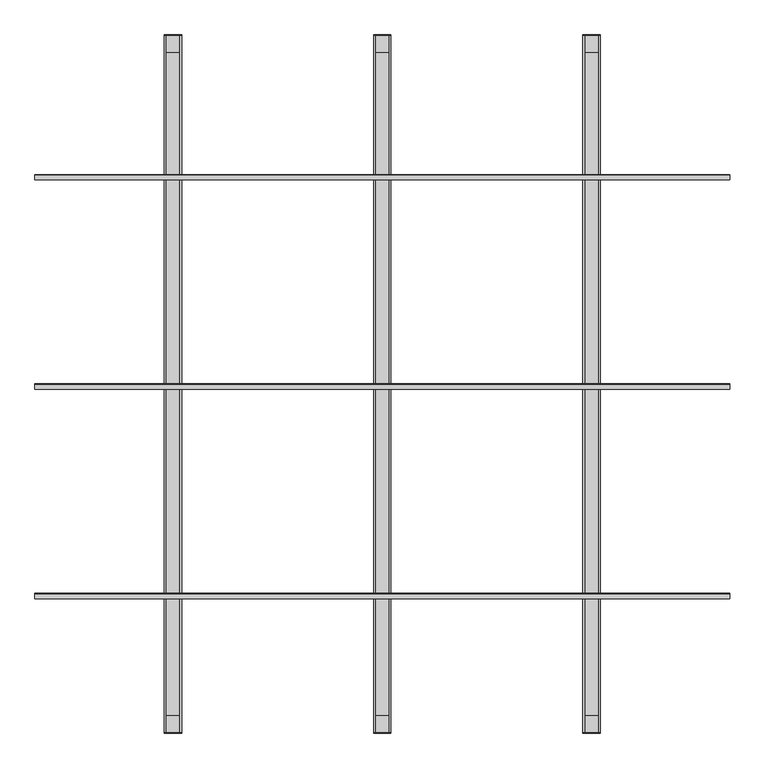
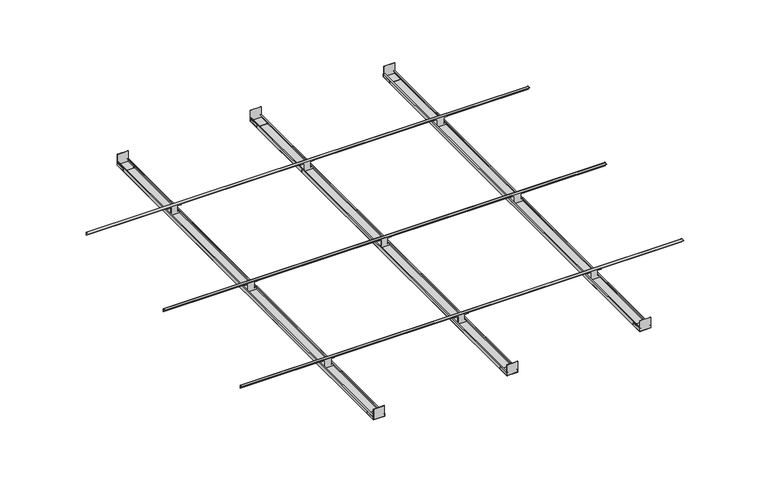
"""IFC4 building model written with IfcOpenShell, lengths in millimetres: proxy geometry, durlum_S5.4K-BR : durlum_S5.4K-BR."""

from ifc_helpers import new_model, si_unit, point, frame, frame_2d, origin, place, context, project, spatial, polyline, circle_curve, trimmed, segment, composite_curve, outline, extrude, source, transform, mapped, element, save


def generic_models_cbd92ba2(model_context):
    return source(origin(), model_context, "Body", "SweptSolid", [
        extrude(outline(polyline([(48.7946553, 1900.0), (48.7946553, 1998.75), (50.0446553, 1998.75), (50.0446553, 1900.0), (48.7946553, 1900.0)])), frame((0.0, 0.0, 2101.4976307), z_axis=(0.0, 0.0, 1.0), x_axis=(1.0, 0.0, 0.0)), (0.0, 0.0, 1.0), 22.9482224),
        extrude(outline(polyline([(-48.7946553, 1900.0), (-50.0446553, 1900.0), (-50.0446553, 1998.75), (-48.7946553, 1998.75), (-48.7946553, 1900.0)])), frame((0.0, 0.0, 2101.4976307), z_axis=(0.0, 0.0, 1.0), x_axis=(1.0, 0.0, 0.0)), (0.0, 0.0, 1.0), 22.9482224),
        extrude(outline(polyline([(2000.0, 2101.4976307), (1900.0, 2101.4976307), (1900.0, 2102.7476307), (1998.75, 2102.7476307), (1998.75, 2201.4976307), (2000.0, 2201.4976307), (2000.0, 2101.4976307)])), frame((-48.7946553, 0.0, 0.0), z_axis=(1.0, 0.0, 0.0), x_axis=(0.0, 1.0, 0.0)), (0.0, 0.0, 1.0), 97.5893106),
        extrude(outline(polyline([(-48.7946553, -1900.0), (-48.7946553, -1998.75), (-50.0446553, -1998.75), (-50.0446553, -1900.0), (-48.7946553, -1900.0)])), frame((0.0, 0.0, 2101.4981533), z_axis=(0.0, 0.0, 1.0), x_axis=(1.0, 0.0, 0.0)), (0.0, 0.0, 1.0), 22.9482224),
        extrude(outline(polyline([(48.7946553, -1900.0), (50.0446553, -1900.0), (50.0446553, -1998.75), (48.7946553, -1998.75), (48.7946553, -1900.0)])), frame((0.0, 0.0, 2101.4981533), z_axis=(0.0, 0.0, 1.0), x_axis=(1.0, 0.0, 0.0)), (0.0, 0.0, 1.0), 22.9482224),
        extrude(outline(polyline([(-2000.0, 2101.4981533), (-2000.0, 2201.4981533), (-1998.75, 2201.4981533), (-1998.75, 2102.7481533), (-1900.0, 2102.7481533), (-1900.0, 2101.4981533), (-2000.0, 2101.4981533)])), frame((-48.7946553, 0.0, 0.0), z_axis=(1.0, 0.0, 0.0), x_axis=(0.0, 1.0, 0.0)), (0.0, 0.0, 1.0), 97.5893106),
        extrude(outline(polyline([(1151.2053447, -1900.0), (1151.2053447, -1998.75), (1149.9553447, -1998.75), (1149.9553447, -1900.0), (1151.2053447, -1900.0)])), frame((0.0, 0.0, 2101.4963067), z_axis=(0.0, 0.0, 1.0), x_axis=(1.0, 0.0, 0.0)), (0.0, 0.0, 1.0), 22.9482224),
        extrude(outline(polyline([(1248.7946553, -1900.0), (1250.0446553, -1900.0), (1250.0446553, -1998.75), (1248.7946553, -1998.75), (1248.7946553, -1900.0)])), frame((0.0, 0.0, 2101.4963067), z_axis=(0.0, 0.0, 1.0), x_axis=(1.0, 0.0, 0.0)), (0.0, 0.0, 1.0), 22.9482224),
        extrude(outline(polyline([(-2000.0, 2101.4963067), (-2000.0, 2201.4963067), (-1998.75, 2201.4963067), (-1998.75, 2102.7463067), (-1900.0, 2102.7463067), (-1900.0, 2101.4963067), (-2000.0, 2101.4963067)])), frame((1151.2053447, 0.0, 0.0), z_axis=(1.0, 0.0, 0.0), x_axis=(0.0, 1.0, 0.0)), (0.0, 0.0, 1.0), 97.5893106),
        extrude(outline(polyline([(1248.7946553, 1900.0), (1248.7946553, 1998.75), (1250.0446553, 1998.75), (1250.0446553, 1900.0), (1248.7946553, 1900.0)])), frame((0.0, 0.0, 2101.4952614), z_axis=(0.0, 0.0, 1.0), x_axis=(1.0, 0.0, 0.0)), (0.0, 0.0, 1.0), 22.9482224),
        extrude(outline(polyline([(1151.2053447, 1900.0), (1149.9553447, 1900.0), (1149.9553447, 1998.75), (1151.2053447, 1998.75), (1151.2053447, 1900.0)])), frame((0.0, 0.0, 2101.4952614), z_axis=(0.0, 0.0, 1.0), x_axis=(1.0, 0.0, 0.0)), (0.0, 0.0, 1.0), 22.9482224),
        extrude(outline(polyline([(2000.0, 2101.4952614), (1900.0, 2101.4952614), (1900.0, 2102.7452614), (1998.75, 2102.7452614), (1998.75, 2201.4952614), (2000.0, 2201.4952614), (2000.0, 2101.4952614)])), frame((1151.2053447, 0.0, 0.0), z_axis=(1.0, 0.0, 0.0), x_axis=(0.0, 1.0, 0.0)), (0.0, 0.0, 1.0), 97.5893106),
        extrude(outline(polyline([(-1248.7946553, -1900.0), (-1248.7946553, -1998.75), (-1250.0446553, -1998.75), (-1250.0446553, -1900.0), (-1248.7946553, -1900.0)])), frame((0.0, 0.0, 2101.5), z_axis=(0.0, 0.0, 1.0), x_axis=(1.0, 0.0, 0.0)), (0.0, 0.0, 1.0), 22.9482224),
        extrude(outline(polyline([(-1151.2053447, -1900.0), (-1149.9553447, -1900.0), (-1149.9553447, -1998.75), (-1151.2053447, -1998.75), (-1151.2053447, -1900.0)])), frame((0.0, 0.0, 2101.5), z_axis=(0.0, 0.0, 1.0), x_axis=(1.0, 0.0, 0.0)), (0.0, 0.0, 1.0), 22.9482224),
        extrude(outline(polyline([(-2000.0, 2101.5), (-2000.0, 2201.5), (-1998.75, 2201.5), (-1998.75, 2102.75), (-1900.0, 2102.75), (-1900.0, 2101.5), (-2000.0, 2101.5)])), frame((-1248.7946553, 0.0, 0.0), z_axis=(1.0, 0.0, 0.0), x_axis=(0.0, 1.0, 0.0)), (0.0, 0.0, 1.0), 97.5893106),
        extrude(outline(polyline([(-1151.2053447, 1900.0), (-1151.2053447, 1998.75), (-1149.9553447, 1998.75), (-1149.9553447, 1900.0), (-1151.2053447, 1900.0)])), frame((0.0, 0.0, 2101.5), z_axis=(0.0, 0.0, 1.0), x_axis=(1.0, 0.0, 0.0)), (0.0, 0.0, 1.0), 22.9482224),
        extrude(outline(polyline([(-1248.7946553, 1900.0), (-1250.0446553, 1900.0), (-1250.0446553, 1998.75), (-1248.7946553, 1998.75), (-1248.7946553, 1900.0)])), frame((0.0, 0.0, 2101.5), z_axis=(0.0, 0.0, 1.0), x_axis=(1.0, 0.0, 0.0)), (0.0, 0.0, 1.0), 22.9482224),
        extrude(outline(polyline([(2000.0, 2101.5), (1900.0, 2101.5), (1900.0, 2102.75), (1998.75, 2102.75), (1998.75, 2201.5), (2000.0, 2201.5), (2000.0, 2101.5)])), frame((-1248.7946553, 0.0, 0.0), z_axis=(1.0, 0.0, 0.0), x_axis=(0.0, 1.0, 0.0)), (0.0, 0.0, 1.0), 97.5893106),
        extrude(outline(polyline([(2125.0, 48.2809886), (2125.0, 46.8282044), (2120.9590465, 46.8282044), (2120.9590465, 28.0249317), (2172.9865783, 28.0249317), (2172.9865783, 62.346391), (2200.0, 62.346391), (2200.0, -62.346391), (2172.9865783, -62.346391), (2172.9865783, -28.0249317), (2120.9590465, -28.0249317), (2120.9590465, -46.8282044), (2125.0, -46.8282044), (2125.0, -48.2809886), (2100.0, -48.2809886), (2100.0, 48.2809886), (2125.0, 48.2809886)])), frame((0.0, -3.9953756, 0.0), z_axis=(0.0, 1.0, 0.0), x_axis=(0.0, 0.0, 1.0)), (0.0, 0.0, 1.0), 1.9953756),
        extrude(outline(polyline([(2125.0, -1151.7190114), (2125.0, -1153.1717956), (2120.9590465, -1153.1717956), (2120.9590465, -1171.9750683), (2172.9865783, -1171.9750683), (2172.9865783, -1137.653609), (2200.0, -1137.653609), (2200.0, -1262.346391), (2172.9865783, -1262.346391), (2172.9865783, -1228.0249317), (2120.9590465, -1228.0249317), (2120.9590465, -1246.8282044), (2125.0, -1246.8282044), (2125.0, -1248.2809886), (2100.0, -1248.2809886), (2100.0, -1151.7190114), (2125.0, -1151.7190114)])), frame((0.0, -3.9953756, 0.0), z_axis=(0.0, 1.0, 0.0), x_axis=(0.0, 0.0, 1.0)), (0.0, 0.0, 1.0), 1.9953756),
        extrude(outline(polyline([(2125.0, 1248.2809886), (2125.0, 1246.8282044), (2120.9590465, 1246.8282044), (2120.9590465, 1228.0249317), (2172.9865783, 1228.0249317), (2172.9865783, 1262.346391), (2200.0, 1262.346391), (2200.0, 1137.653609), (2172.9865783, 1137.653609), (2172.9865783, 1171.9750683), (2120.9590465, 1171.9750683), (2120.9590465, 1153.1717956), (2125.0, 1153.1717956), (2125.0, 1151.7190114), (2100.0, 1151.7190114), (2100.0, 1248.2809886), (2125.0, 1248.2809886)])), frame((0.0, -3.9953756, 0.0), z_axis=(0.0, 1.0, 0.0), x_axis=(0.0, 0.0, 1.0)), (0.0, 0.0, 1.0), 1.9953756),
        extrude(outline(composite_curve([segment(polyline([(-2.0, 2176.1), (-2.0, 2202.0)]), True, "CONTINUOUS"), segment(trimmed(circle_curve(frame_2d((-4.0, 2202.0)), 2.0), [point((-2.0, 2202.0))], [point((-4.0, 2204.0))], True, "CARTESIAN"), True, "CONTINUOUS"), segment(polyline([(-4.0, 2204.0), (-29.9, 2204.0), (-29.9, 2206.0), (-4.0, 2206.0)]), True, "CONTINUOUS"), segment(trimmed(circle_curve(frame_2d((-4.0, 2202.0)), 4.0), [point((-4.0, 2206.0))], [point((0.0, 2202.0))], False, "CARTESIAN"), True, "CONTINUOUS"), segment(polyline([(0.0, 2202.0), (0.0, 2176.1), (-2.0, 2176.1)]), True, "CONTINUOUS")], self_intersect=False)), frame((-1990.0, 0.0, 0.0), z_axis=(1.0, 0.0, 0.0), x_axis=(0.0, 1.0, 0.0)), (0.0, 0.0, 1.0), 3980.0),
        extrude(outline(polyline([(2125.0, 48.2809886), (2125.0, 46.8282044), (2120.9590465, 46.8282044), (2120.9590465, 28.0249317), (2172.9865783, 28.0249317), (2172.9865783, 62.346391), (2200.0, 62.346391), (2200.0, -62.346391), (2172.9865783, -62.346391), (2172.9865783, -28.0249317), (2120.9590465, -28.0249317), (2120.9590465, -46.8282044), (2125.0, -46.8282044), (2125.0, -48.2809886), (2100.0, -48.2809886), (2100.0, 48.2809886), (2125.0, 48.2809886)])), frame((0.0, -1203.9953756, 0.0), z_axis=(0.0, 1.0, 0.0), x_axis=(0.0, 0.0, 1.0)), (0.0, 0.0, 1.0), 1.9953756),
        extrude(outline(polyline([(2125.0, -1151.7190114), (2125.0, -1153.1717956), (2120.9590465, -1153.1717956), (2120.9590465, -1171.9750683), (2172.9865783, -1171.9750683), (2172.9865783, -1137.653609), (2200.0, -1137.653609), (2200.0, -1262.346391), (2172.9865783, -1262.346391), (2172.9865783, -1228.0249317), (2120.9590465, -1228.0249317), (2120.9590465, -1246.8282044), (2125.0, -1246.8282044), (2125.0, -1248.2809886), (2100.0, -1248.2809886), (2100.0, -1151.7190114), (2125.0, -1151.7190114)])), frame((0.0, -1203.9953756, 0.0), z_axis=(0.0, 1.0, 0.0), x_axis=(0.0, 0.0, 1.0)), (0.0, 0.0, 1.0), 1.9953756),
        extrude(outline(polyline([(2125.0, 1248.2809886), (2125.0, 1246.8282044), (2120.9590465, 1246.8282044), (2120.9590465, 1228.0249317), (2172.9865783, 1228.0249317), (2172.9865783, 1262.346391), (2200.0, 1262.346391), (2200.0, 1137.653609), (2172.9865783, 1137.653609), (2172.9865783, 1171.9750683), (2120.9590465, 1171.9750683), (2120.9590465, 1153.1717956), (2125.0, 1153.1717956), (2125.0, 1151.7190114), (2100.0, 1151.7190114), (2100.0, 1248.2809886), (2125.0, 1248.2809886)])), frame((0.0, -1203.9953756, 0.0), z_axis=(0.0, 1.0, 0.0), x_axis=(0.0, 0.0, 1.0)), (0.0, 0.0, 1.0), 1.9953756),
        extrude(outline(composite_curve([segment(polyline([(-1202.0, 2176.1), (-1202.0, 2202.0)]), True, "CONTINUOUS"), segment(trimmed(circle_curve(frame_2d((-1204.0, 2202.0)), 2.0), [point((-1202.0, 2202.0))], [point((-1204.0, 2204.0))], True, "CARTESIAN"), True, "CONTINUOUS"), segment(polyline([(-1204.0, 2204.0), (-1229.9, 2204.0), (-1229.9, 2206.0), (-1204.0, 2206.0)]), True, "CONTINUOUS"), segment(trimmed(circle_curve(frame_2d((-1204.0, 2202.0)), 4.0), [point((-1204.0, 2206.0))], [point((-1200.0, 2202.0))], False, "CARTESIAN"), True, "CONTINUOUS"), segment(polyline([(-1200.0, 2202.0), (-1200.0, 2176.1), (-1202.0, 2176.1)]), True, "CONTINUOUS")], self_intersect=False)), frame((-1990.0, 0.0, 0.0), z_axis=(1.0, 0.0, 0.0), x_axis=(0.0, 1.0, 0.0)), (0.0, 0.0, 1.0), 3980.0),
        extrude(outline(polyline([(2130.0, -50.0), (2100.0, -50.0), (2100.0, 50.0), (2130.0, 50.0), (2130.0, 40.0), (2129.0, 40.0), (2129.0, 49.0), (2101.0, 49.0), (2101.0, -49.0), (2129.0, -49.0), (2129.0, -40.0), (2130.0, -40.0), (2130.0, -50.0)])), frame((0.0, -2000.0, 0.0), z_axis=(0.0, 1.0, 0.0), x_axis=(0.0, 0.0, 1.0)), (0.0, 0.0, 1.0), 4000.0),
        extrude(outline(polyline([(2130.0, -1250.0), (2100.0, -1250.0), (2100.0, -1150.0), (2130.0, -1150.0), (2130.0, -1160.0), (2129.0, -1160.0), (2129.0, -1151.0), (2101.0, -1151.0), (2101.0, -1249.0), (2129.0, -1249.0), (2129.0, -1240.0), (2130.0, -1240.0), (2130.0, -1250.0)])), frame((0.0, -2000.0, 0.0), z_axis=(0.0, 1.0, 0.0), x_axis=(0.0, 0.0, 1.0)), (0.0, 0.0, 1.0), 4000.0),
        extrude(outline(polyline([(2130.0, 1150.0), (2100.0, 1150.0), (2100.0, 1250.0), (2130.0, 1250.0), (2130.0, 1240.0), (2129.0, 1240.0), (2129.0, 1249.0), (2101.0, 1249.0), (2101.0, 1151.0), (2129.0, 1151.0), (2129.0, 1160.0), (2130.0, 1160.0), (2130.0, 1150.0)])), frame((0.0, -2000.0, 0.0), z_axis=(0.0, 1.0, 0.0), x_axis=(0.0, 0.0, 1.0)), (0.0, 0.0, 1.0), 4000.0),
        extrude(outline(polyline([(2125.0, 48.2809886), (2125.0, 46.8282044), (2120.9590465, 46.8282044), (2120.9590465, 28.0249317), (2172.9865783, 28.0249317), (2172.9865783, 62.346391), (2200.0, 62.346391), (2200.0, -62.346391), (2172.9865783, -62.346391), (2172.9865783, -28.0249317), (2120.9590465, -28.0249317), (2120.9590465, -46.8282044), (2125.0, -46.8282044), (2125.0, -48.2809886), (2100.0, -48.2809886), (2100.0, 48.2809886), (2125.0, 48.2809886)])), frame((0.0, 1196.0046244, 0.0), z_axis=(0.0, 1.0, 0.0), x_axis=(0.0, 0.0, 1.0)), (0.0, 0.0, 1.0), 1.9953756),
        extrude(outline(polyline([(2125.0, -1151.7190114), (2125.0, -1153.1717956), (2120.9590465, -1153.1717956), (2120.9590465, -1171.9750683), (2172.9865783, -1171.9750683), (2172.9865783, -1137.653609), (2200.0, -1137.653609), (2200.0, -1262.346391), (2172.9865783, -1262.346391), (2172.9865783, -1228.0249317), (2120.9590465, -1228.0249317), (2120.9590465, -1246.8282044), (2125.0, -1246.8282044), (2125.0, -1248.2809886), (2100.0, -1248.2809886), (2100.0, -1151.7190114), (2125.0, -1151.7190114)])), frame((0.0, 1196.0046244, 0.0), z_axis=(0.0, 1.0, 0.0), x_axis=(0.0, 0.0, 1.0)), (0.0, 0.0, 1.0), 1.9953756),
        extrude(outline(polyline([(2125.0, 1248.2809886), (2125.0, 1246.8282044), (2120.9590465, 1246.8282044), (2120.9590465, 1228.0249317), (2172.9865783, 1228.0249317), (2172.9865783, 1262.346391), (2200.0, 1262.346391), (2200.0, 1137.653609), (2172.9865783, 1137.653609), (2172.9865783, 1171.9750683), (2120.9590465, 1171.9750683), (2120.9590465, 1153.1717956), (2125.0, 1153.1717956), (2125.0, 1151.7190114), (2100.0, 1151.7190114), (2100.0, 1248.2809886), (2125.0, 1248.2809886)])), frame((0.0, 1196.0046244, 0.0), z_axis=(0.0, 1.0, 0.0), x_axis=(0.0, 0.0, 1.0)), (0.0, 0.0, 1.0), 1.9953756),
        extrude(outline(composite_curve([segment(polyline([(1198.0, 2176.1), (1198.0, 2202.0)]), True, "CONTINUOUS"), segment(trimmed(circle_curve(frame_2d((1196.0, 2202.0)), 2.0), [point((1198.0, 2202.0))], [point((1196.0, 2204.0))], True, "CARTESIAN"), True, "CONTINUOUS"), segment(polyline([(1196.0, 2204.0), (1170.1, 2204.0), (1170.1, 2206.0), (1196.0, 2206.0)]), True, "CONTINUOUS"), segment(trimmed(circle_curve(frame_2d((1196.0, 2202.0)), 4.0), [point((1196.0, 2206.0))], [point((1200.0, 2202.0))], False, "CARTESIAN"), True, "CONTINUOUS"), segment(polyline([(1200.0, 2202.0), (1200.0, 2176.1), (1198.0, 2176.1)]), True, "CONTINUOUS")], self_intersect=False)), frame((-1990.0, 0.0, 0.0), z_axis=(1.0, 0.0, 0.0), x_axis=(0.0, 1.0, 0.0)), (0.0, 0.0, 1.0), 3980.0),
    ])


if __name__ == "__main__":
    model = new_model("IFC4")
    model_context = context("Model", 3, world=origin())
    ifc_project = project(units=[si_unit("LENGTHUNIT", "METRE", prefix="MILLI")], contexts=[model_context])
    site = spatial("IfcSite", under=ifc_project)
    building = spatial("IfcBuilding", under=site)
    placement = place(None, origin())
    generic_models_shape = generic_models_cbd92ba2(model_context)
    element("IfcBuildingElementProxy", 1, Name="durlum_S5.4K-BR : durlum_S5.4K-BR", ObjectType="durlum_S5.4K-BR : durlum_S5.4K-BR", at=placement, inside=building, context=model_context, shape_type="MappedRepresentation", body=[
        mapped(generic_models_shape, transform((0.0, 0.0, 0.0), x_axis=(1.0, 0.0, 0.0), y_axis=(0.0, 1.0, 0.0), z_axis=(0.0, 0.0, 1.0))),
    ])
    save(model, "model.ifc")
